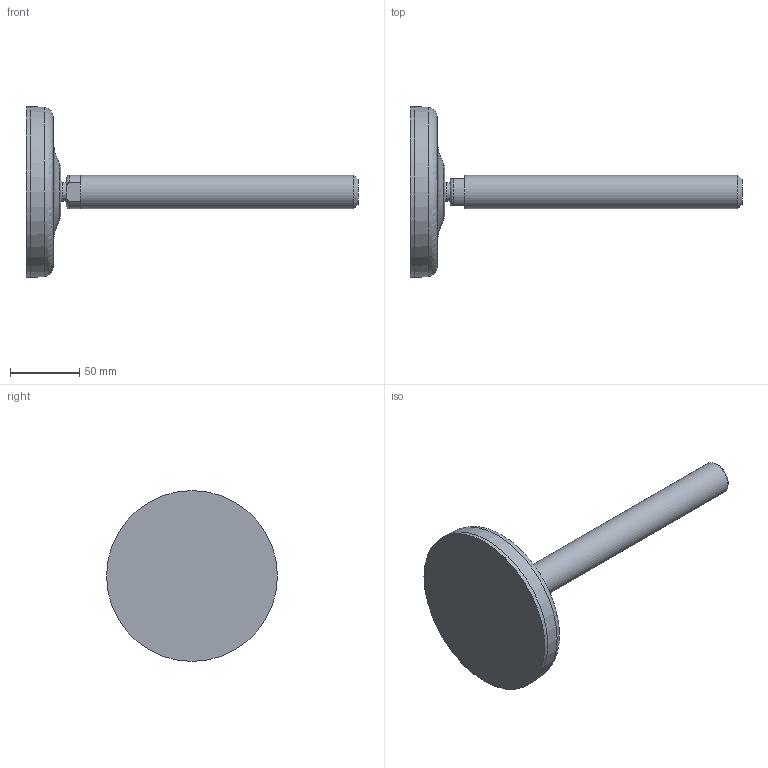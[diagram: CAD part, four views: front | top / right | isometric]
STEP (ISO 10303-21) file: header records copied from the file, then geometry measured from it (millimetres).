
FILE_DESCRIPTION(('STEP AP203'),'2;1');
FILE_NAME('18637.stp','2014-08-25T17:13:32',(''),(''),'2008.1.107','THINKDESIGN','');
FILE_SCHEMA(('CONFIG_CONTROL_DESIGN'));
Length unit declared in the file: millimetre
Bounding box: 239 x 123 x 123 mm (x, y, z)
Volume: 331061.6 mm3; surface area: 73286.3 mm2
Topology: 5 solids, 5 shells, 27 faces, 59 edges, 42 vertices
Faces by surface type: plane 12, bspline 9, cylinder 6
Full cylindrical faces by diameter (mm): 13.5 x1, 17.321 x1, 24 x1, 123 x1
Entity records: 1446 total; most frequent: CARTESIAN_POINT 760, DIRECTION 130, ORIENTED_EDGE 114, AXIS2_PLACEMENT_3D 59, EDGE_CURVE 57, VERTEX_POINT 42, CIRCLE 41, EDGE_LOOP 29
